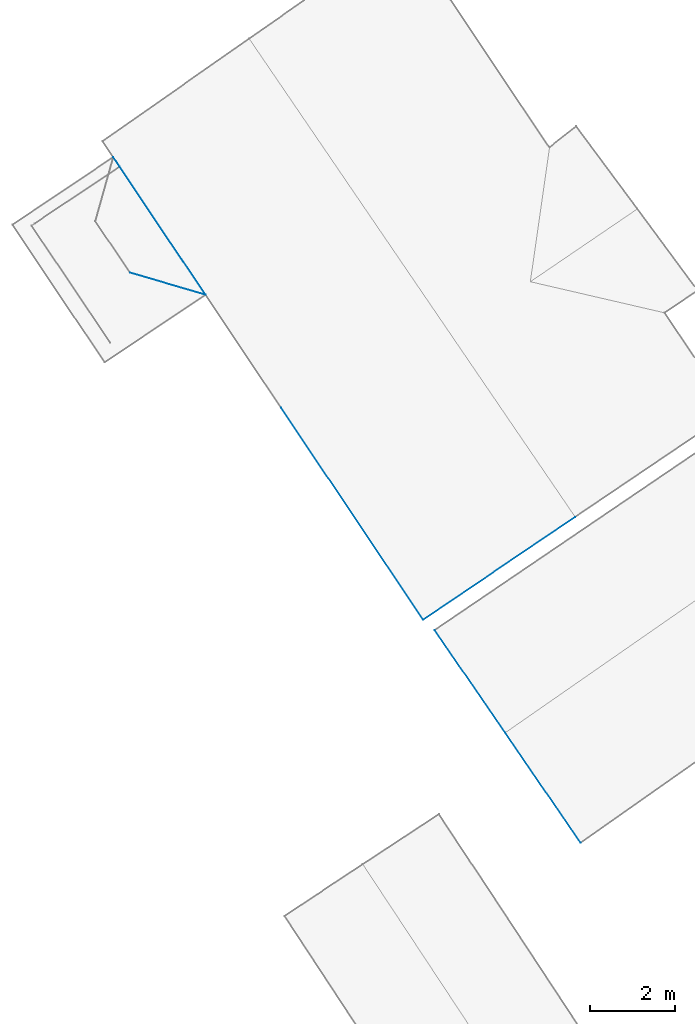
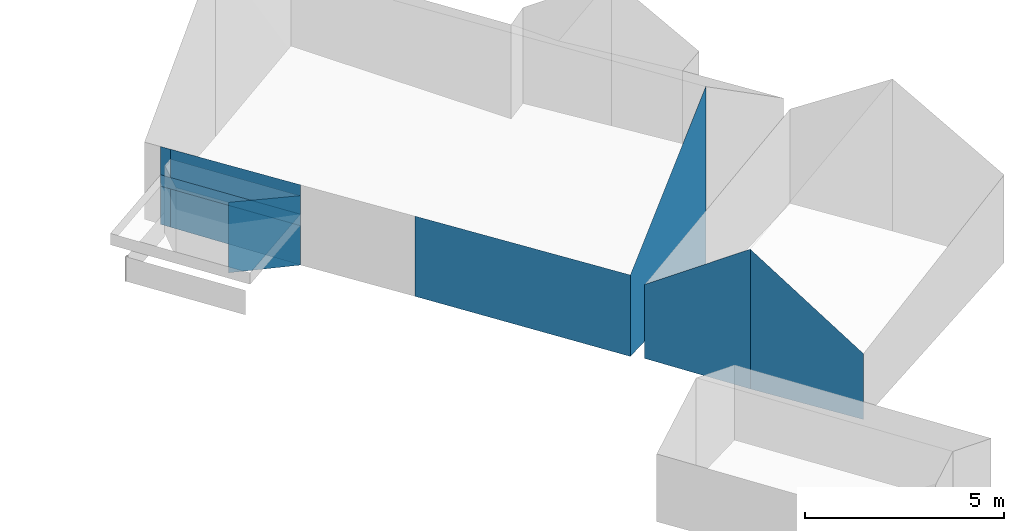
# Not in any storey, part 2 of 57: 11 walls.
"""IFC4 building model written with IfcOpenShell, lengths in metres."""

import ifcopenshell
import ifcopenshell.guid

model = None  # the IFC model being written
_history = None  # IfcOwnerHistory: only IFC2X3 demands one
_inside = {}  # id of a spatial element -> (the spatial element, [elements in it])
_under = {}  # id of a project, library or spatial element -> (it, [spatial elements below it])
_declared = {}  # id of a project -> (the project, [libraries it declares])
_typed = {}  # id of a type object -> (the type object, [elements of that type])
_made_of = {}  # id of a material, layer set ... -> (it, [elements and type objects made of it])


def new_model(schema):
    """Start an empty IFC model of exactly this schema.

    Asked for "IFC4X3", IfcOpenShell would pick the latest addendum, in which some entities
    have other attributes; the version numbers below select the first issue.
    IFC2X3 requires an IfcOwnerHistory on every rooted entity: one is made here for all.
    """
    global model, _history
    if schema == "IFC4X3":
        model = ifcopenshell.file(schema_version=(4, 3, 0, 0))
    else:
        model = ifcopenshell.file(schema=schema)
    _inside.clear()
    _under.clear()
    _declared.clear()
    _typed.clear()
    _made_of.clear()
    _history = None
    if model.schema == "IFC2X3":
        org = make("IfcOrganization", Name="unknown")
        user = make(
            "IfcPersonAndOrganization",
            ThePerson=make("IfcPerson", FamilyName="unknown"),
            TheOrganization=org,
        )
        app = make(
            "IfcApplication",
            ApplicationDeveloper=org,
            Version="unknown",
            ApplicationFullName="unknown",
            ApplicationIdentifier="unknown",
        )
        _history = make(
            "IfcOwnerHistory",
            OwningUser=user,
            OwningApplication=app,
            ChangeAction="ADDED",
            CreationDate=0,
        )
    return model


def make(cls, **values):
    """One entity of the class cls with the attributes given. An attribute that is None is left unset."""
    return model.create_entity(
        cls, **{name: value for name, value in values.items() if value is not None}
    )


def entity(cls, *values):
    """Any entity or typed value of the class cls, its attributes in the order of the schema. None: left unset."""
    e = model.create_entity(cls)
    for i, value in enumerate(values):
        if value is not None:
            e[i] = value
    return e


def rooted(cls, **values):
    """An entity with a GlobalId (a new one), such as an element, a storey or a relation."""
    return make(cls, GlobalId=ifcopenshell.guid.new(), OwnerHistory=_history, **values)


def si_unit(unit_type, name, prefix=None):
    """IfcSIUnit, for example si_unit("LENGTHUNIT", "METRE", prefix="MILLI")."""
    return make("IfcSIUnit", UnitType=unit_type, Prefix=prefix, Name=name)


def converted_unit(unit_type, name, factor, base, dimensions=None, offset=None):
    """IfcConversionBasedUnit, such as the inch: factor (a typed value) times the base unit."""
    return make(
        "IfcConversionBasedUnit"
        if offset is None
        else "IfcConversionBasedUnitWithOffset",
        ConversionOffset=offset,
        Dimensions=None
        if dimensions is None
        else entity("IfcDimensionalExponents", *dimensions),
        UnitType=unit_type,
        Name=name,
        ConversionFactor=make(
            "IfcMeasureWithUnit", ValueComponent=factor, UnitComponent=base
        ),
    )


def assignment(units):
    """IfcUnitAssignment: the units of a project."""
    return None if units is None else make("IfcUnitAssignment", Units=units)


def point(xyz):
    """IfcCartesianPoint."""
    return None if xyz is None else make("IfcCartesianPoint", Coordinates=xyz)


def direction(xyz):
    """IfcDirection."""
    return None if xyz is None else make("IfcDirection", DirectionRatios=xyz)


def frame(location, z_axis=None, x_axis=None):
    """IfcAxis2Placement3D, a coordinate frame: its origin and axes. An axis left out is left unset."""
    return make(
        "IfcAxis2Placement3D",
        Location=point(location),
        Axis=direction(z_axis),
        RefDirection=direction(x_axis),
    )


def origin():
    """The frame at (0, 0, 0) with its axes left unset."""
    return frame((0.0, 0.0, 0.0))


def place(relative_to, where):
    """IfcLocalPlacement: puts the frame where relative to a parent placement (None: the world)."""
    return make(
        "IfcLocalPlacement", PlacementRelTo=relative_to, RelativePlacement=where
    )


def context(
    kind, dimensions, precision=None, world=None, true_north=None, identifier=None
):
    """IfcGeometricRepresentationContext, for example the 3D "Model" context."""
    return make(
        "IfcGeometricRepresentationContext",
        ContextIdentifier=identifier,
        ContextType=kind,
        CoordinateSpaceDimension=dimensions,
        Precision=precision,
        WorldCoordinateSystem=world,
        TrueNorth=true_north,
    )


def subcontext(parent, identifier, kind, view, scale=None):
    """IfcGeometricRepresentationSubContext, for example "Body" below "Model"."""
    return make(
        "IfcGeometricRepresentationSubContext",
        ContextIdentifier=identifier,
        ContextType=kind,
        ParentContext=parent,
        TargetScale=scale,
        TargetView=view,
    )


def project(units=None, contexts=None):
    """IfcProject with its units and contexts."""
    return rooted(
        "IfcProject",
        Name="project",
        RepresentationContexts=contexts,
        UnitsInContext=assignment(units),
    )


def spatial(cls, under=None, at=None, **own):
    """A site, building, storey or space (cls), placed at a placement, below another one or the project."""
    s = rooted(cls, ObjectPlacement=at, **own)
    if under is not None:
        _under.setdefault(under.id(), (under, []))[1].append(s)
    return s


def faces_of(points, faces, orient=None, outer=None):
    """IfcFace entities. A face is a list of loops; a loop is a list of indices into points, from 0.

    orient and outer hold one flag for each loop. By default every Orientation is true, the
    first loop of a face is its IfcFaceOuterBound and the others are IfcFaceBound.
    """
    made = []
    for i, loops in enumerate(faces):
        bounds = []
        for j, loop in enumerate(loops):
            is_outer = j == 0 if outer is None else outer[i][j]
            bounds.append(
                make(
                    "IfcFaceOuterBound" if is_outer else "IfcFaceBound",
                    Bound=make("IfcPolyLoop", Polygon=[points[k] for k in loop]),
                    Orientation=True if orient is None else orient[i][j],
                )
            )
        made.append(make("IfcFace", Bounds=bounds))
    return made


def face_set(faces, orient=None, outer=None):
    """The faces of one IfcConnectedFaceSet. surface_model builds it on its shared points."""
    return ("IfcConnectedFaceSet", faces, orient, outer)


def surface_model(cls, points, shells):
    """IfcFaceBasedSurfaceModel or IfcShellBasedSurfaceModel (cls): surfaces that need not close."""
    shared = [point(p) for p in points]
    made = [make(c, CfsFaces=faces_of(shared, fs, o, b)) for c, fs, o, b in shells]
    if cls == "IfcFaceBasedSurfaceModel":
        return make(cls, FbsmFaces=made)
    return make(cls, SbsmBoundary=made)


def shape(context_of_items, identifier, shape_type, items):
    """IfcShapeRepresentation: the items that make up one representation, for example the "Body"."""
    return make(
        "IfcShapeRepresentation",
        ContextOfItems=context_of_items,
        RepresentationIdentifier=identifier,
        RepresentationType=shape_type,
        Items=items,
    )


def made_of(thing, what):
    """Note that an element or type object is made of a material, layer set ...; save() writes the relation."""
    if what is not None:
        _made_of.setdefault(what.id(), (what, []))[1].append(thing)
    return thing


def element(
    cls,
    number,
    at=None,
    inside=None,
    cuts=None,
    type_object=None,
    material=None,
    context=None,
    identifier="Body",
    shape_type=None,
    held_by="IfcProductDefinitionShape",
    body=None,
    shapes=None,
    **own,
):
    """One element of the class cls, such as IfcWall. Its Tag is "e" and its number.

    at: its placement. inside: the storey or other place that contains it. cuts: it is an
    opening in that element (IfcRelVoidsElement). A single representation is given by context,
    identifier, shape_type and body (its items); several are given by shapes. held_by: the class
    of the entity that holds the representations. save() writes the other relations.
    """
    e = rooted(cls, Tag="e%d" % number, ObjectPlacement=at, **own)
    if body is not None:
        shapes = [shape(context, identifier, shape_type, body)]
    if shapes is not None:
        e.Representation = make(held_by, Representations=shapes)
    if inside is not None:
        _inside.setdefault(inside.id(), (inside, []))[1].append(e)
    if cuts is not None:
        rooted(
            "IfcRelVoidsElement", RelatingBuildingElement=cuts, RelatedOpeningElement=e
        )
    if type_object is not None:
        _typed.setdefault(type_object.id(), (type_object, []))[1].append(e)
    return made_of(e, material)


def aggregate(whole, parts):
    """IfcRelAggregates: a whole, such as a stair, and the parts it consists of."""
    return rooted("IfcRelAggregates", RelatingObject=whole, RelatedObjects=parts)


def save(model, path):
    """Write the relations noted so far, then the file.

    IfcRelAggregates (storeys below a building ...), IfcRelContainedInSpatialStructure (elements
    in a storey), IfcRelDefinesByType, IfcRelAssociatesMaterial and IfcRelDeclares: one each for
    every whole, place, type object, material and project.
    """
    for whole, parts in _under.values():
        aggregate(whole, parts)
    for where, things in _inside.values():
        rooted(
            "IfcRelContainedInSpatialStructure",
            RelatedElements=things,
            RelatingStructure=where,
        )
    for kind, things in _typed.values():
        rooted("IfcRelDefinesByType", RelatedObjects=things, RelatingType=kind)
    for what, things in _made_of.values():
        rooted("IfcRelAssociatesMaterial", RelatedObjects=things, RelatingMaterial=what)
    for by, libraries in _declared.values():
        rooted("IfcRelDeclares", RelatingContext=by, RelatedDefinitions=libraries)
    model.write(path)


model = new_model("IFC4")

# Units and contexts
model_context = context("Model", 3, precision=1e-05, world=origin())
body_context = subcontext(model_context, "Body", "Model", "MODEL_VIEW")
ifc_project = project(units=[converted_unit("PLANEANGLEUNIT", "DEGREE", entity("IfcRatioMeasure", 0.0174532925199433), si_unit("PLANEANGLEUNIT", "RADIAN"), dimensions=[0, 0, 0, 0, 0, 0, 0]), si_unit("AREAUNIT", "SQUARE_METRE"), si_unit("LENGTHUNIT", "METRE")], contexts=[model_context])

# Site, building
site_placement = place(None, origin())
site = spatial("IfcSite", under=ifc_project, at=site_placement, Name="_site")
building_1_placement = place(site_placement, origin())
building_1 = spatial("IfcBuilding", under=site, at=building_1_placement, Name="_building")

# Walls
wall_1_placement = place(building_1_placement, origin())
element("IfcWall", 1, at=wall_1_placement, inside=building_1, Name="Wall", PredefinedType="NOTDEFINED", context=body_context, shape_type="SurfaceModel", body=[
    surface_model("IfcFaceBasedSurfaceModel", [(96.89, 70.709, 115.81), (95.225, 73.129, 113.84), (95.225, 73.129, 111.573), (96.89, 70.709, 111.523)], [face_set([[[0, 1, 2, 3]]])]),
])
wall_2_placement = place(building_1_placement, origin())
element("IfcWall", 2, at=wall_2_placement, inside=building_1, Name="Wall", PredefinedType="NOTDEFINED", context=body_context, shape_type="SurfaceModel", body=[
    surface_model("IfcFaceBasedSurfaceModel", [(98.67, 68.106, 113.56), (96.89, 70.709, 115.81), (96.89, 70.709, 111.523), (98.67, 68.106, 111.541)], [face_set([[[0, 1, 2, 3]]])]),
])

# Building
building_2_placement = place(site_placement, origin())
building_2 = spatial("IfcBuilding", under=site, at=building_2_placement, Name="_building")

# Walls
wall_3_placement = place(building_2_placement, origin())
element("IfcWall", 3, at=wall_3_placement, inside=building_2, Name="Wall", PredefinedType="NOTDEFINED", context=body_context, shape_type="SurfaceModel", body=[
    surface_model("IfcFaceBasedSurfaceModel", [(87.632, 84.305, 112.849), (87.785, 84.079, 112.849), (87.785, 84.079, 111.564), (87.632, 84.305, 111.571)], [face_set([[[0, 1, 2, 3]]])]),
])
wall_4_placement = place(building_2_placement, origin())
element("IfcWall", 4, at=wall_4_placement, inside=building_2, Name="Wall", PredefinedType="NOTDEFINED", context=body_context, shape_type="SurfaceModel", body=[
    surface_model("IfcFaceBasedSurfaceModel", [(89.811, 81.05, 113.659), (88.029, 81.573, 113.76), (88.029, 81.573, 111.598), (89.811, 81.05, 111.53)], [face_set([[[0, 1, 2, 3]]])]),
])
wall_5_placement = place(building_2_placement, origin())
element("IfcWall", 5, at=wall_5_placement, inside=building_2, Name="Wall", PredefinedType="NOTDEFINED", context=body_context, shape_type="SurfaceModel", body=[
    surface_model("IfcFaceBasedSurfaceModel", [(87.785, 84.079, 113.659), (89.811, 81.05, 113.659), (89.811, 81.05, 111.53), (87.785, 84.079, 111.564)], [face_set([[[0, 1, 2, 3]]])]),
])

# Building
building_3_placement = place(site_placement, origin())
building_3 = spatial("IfcBuilding", under=site, at=building_3_placement, Name="_building")

# Walls
for number, where, name in (
    (6, (0.0, 0.0, 0.0), "Wall"),
    (7, (0.0, 0.0, 0.0), "Wall"),
):
    element("IfcWall", number, at=place(building_3_placement, frame(where)), inside=building_3, Name=name, PredefinedType="NOTDEFINED", context=body_context, shape_type="SurfaceModel", body=[
        surface_model("IfcFaceBasedSurfaceModel", [(87.632, 84.304, 113.09), (89.807, 81.051, 113.09), (89.807, 81.051, 112.74), (87.632, 84.304, 112.74)], [face_set([[[0, 1, 2, 3]]])]),
    ])
wall_6_placement = place(building_3_placement, origin())
element("IfcWall", 8, at=wall_6_placement, inside=building_3, Name="Wall", PredefinedType="NOTDEFINED", context=body_context, shape_type="SurfaceModel", body=[
    surface_model("IfcFaceBasedSurfaceModel", [(87.785, 84.079, 113.957), (87.632, 84.305, 113.954), (87.632, 84.305, 111.571), (87.785, 84.079, 111.564)], [face_set([[[0, 1, 2, 3]]])]),
])
wall_7_placement = place(building_3_placement, origin())
element("IfcWall", 9, at=wall_7_placement, inside=building_3, Name="Wall", PredefinedType="NOTDEFINED", context=body_context, shape_type="SurfaceModel", body=[
    surface_model("IfcFaceBasedSurfaceModel", [(89.811, 81.05, 113.992), (87.785, 84.079, 113.957), (87.785, 84.079, 111.564), (89.811, 81.05, 111.53)], [face_set([[[0, 1, 2, 3]]])]),
])
wall_8_placement = place(building_3_placement, origin())
element("IfcWall", 10, at=wall_8_placement, inside=building_3, Name="Wall", PredefinedType="NOTDEFINED", context=body_context, shape_type="SurfaceModel", body=[
    surface_model("IfcFaceBasedSurfaceModel", [(94.951, 73.376, 114.08), (91.595, 78.388, 114.022), (91.595, 78.388, 111.561), (94.951, 73.376, 111.581)], [face_set([[[0, 1, 2, 3]]])]),
])
wall_9_placement = place(building_3_placement, origin())
element("IfcWall", 11, at=wall_9_placement, inside=building_3, Name="Wall", PredefinedType="NOTDEFINED", context=body_context, shape_type="SurfaceModel", body=[
    surface_model("IfcFaceBasedSurfaceModel", [(98.54, 75.803, 117.13), (94.951, 73.376, 114.08), (94.951, 73.376, 111.581), (98.54, 75.803, 111.304)], [face_set([[[0, 1, 2, 3]]])]),
])

save(model, "model.ifc")
